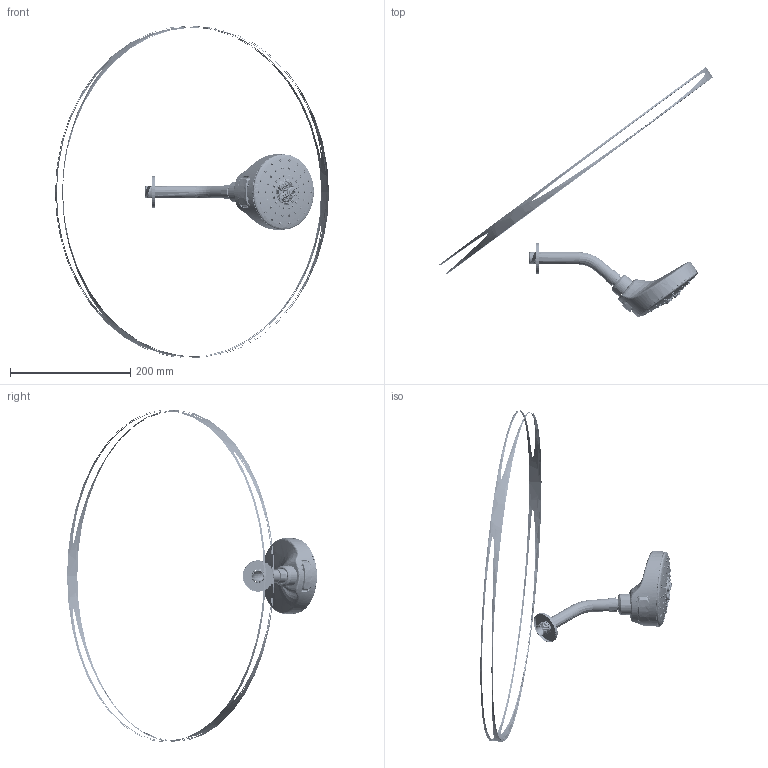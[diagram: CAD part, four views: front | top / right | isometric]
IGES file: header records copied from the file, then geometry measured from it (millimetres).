
Start section: SolidWorks IGES file using analytic representation for surfaces
Global section: file name: C:\Users\atober\Desktop\5902539814200_stp.IGS; native system: SolidWorks 2022; preprocessor: SolidWorks 2022; author: atober; date: 221212.130311; units: millimetre
Bounding box: 455.32 x 415.27 x 551.87 mm (x, y, z)
Surface area: 253772.6 mm2 (no closed solid volume)
Topology: 0 solids, 0 shells, 4172 faces, 53776 edges, 53691 vertices
Faces by surface type: bspline 2105, revolution 2067
